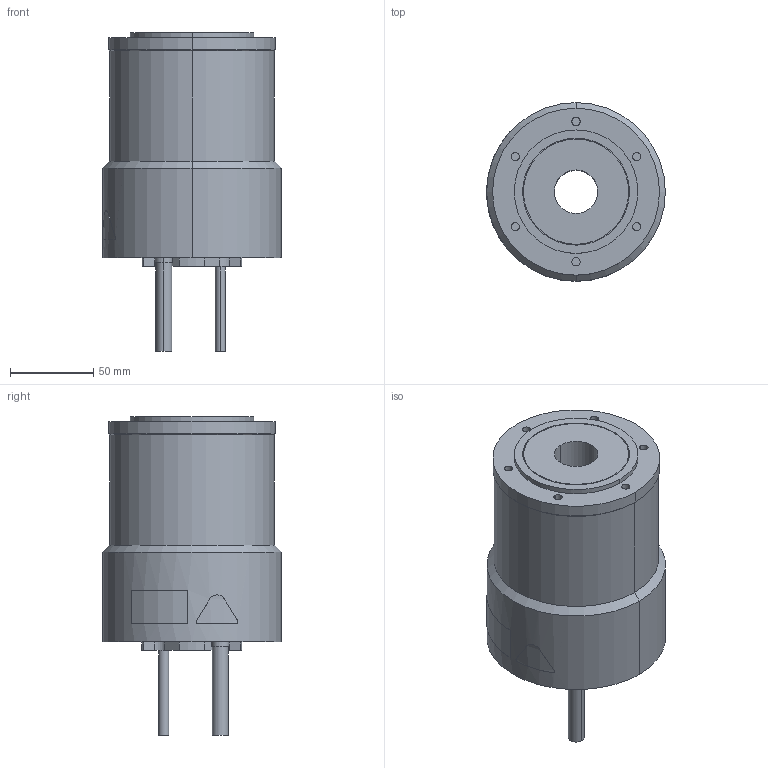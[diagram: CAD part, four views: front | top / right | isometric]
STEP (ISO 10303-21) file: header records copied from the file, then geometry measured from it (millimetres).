
FILE_DESCRIPTION (( 'STEP AP203' ), '1' );
FILE_NAME ('sgm7d_06k_c5_.STEP', '2016-06-13T04:54:09', ( '' ), ( '' ), 'SwSTEP 2.0', 'SolidWorks 2010', '' );
FILE_SCHEMA (( 'CONFIG_CONTROL_DESIGN' ));
Length unit declared in the file: millimetre
Products named in the file (1): sgm7d_06k_c5_
Bounding box: 107.04 x 107 x 191 mm (x, y, z)
Volume: 1035272.7 mm3; surface area: 77634.4 mm2
Topology: 1 solids, 1 shells, 123 faces, 277 edges, 182 vertices
Faces by surface type: cylinder 71, plane 43, bspline 5, cone 4
Entity records: 3932 total; most frequent: CARTESIAN_POINT 998, DIRECTION 643, ORIENTED_EDGE 554, EDGE_CURVE 277, AXIS2_PLACEMENT_3D 263, VERTEX_POINT 182, EDGE_LOOP 151, CIRCLE 144
